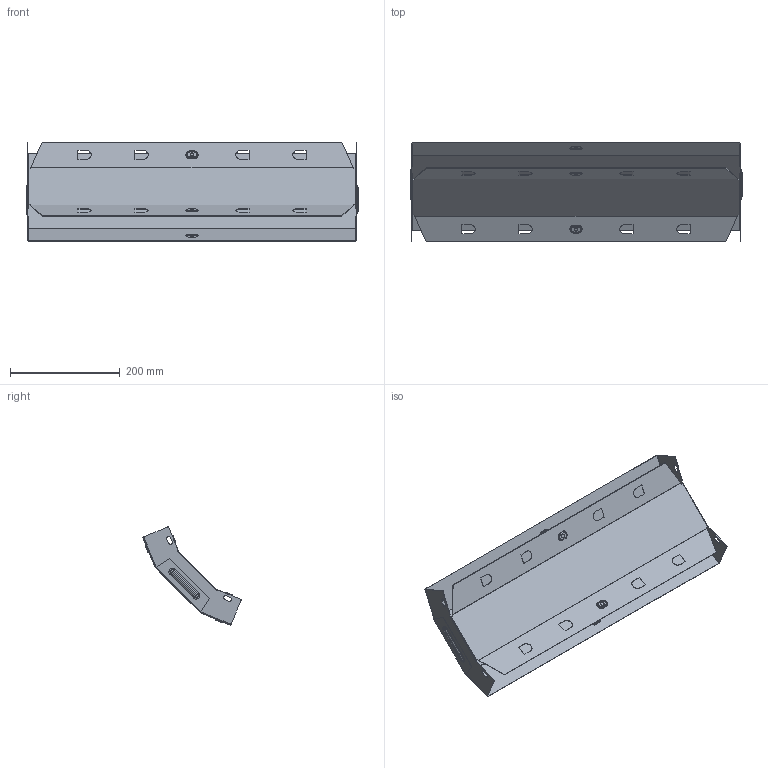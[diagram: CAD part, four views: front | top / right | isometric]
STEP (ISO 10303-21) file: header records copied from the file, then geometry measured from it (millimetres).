
FILE_DESCRIPTION (( 'STEP AP214' ), '1' );
FILE_NAME ('vo4550600_捘.STEP', '2019-06-10T08:18:49', ( '砐錪賧瘔蠈錪 Windows' ), ( '' ), 'SwSTEP 2.0', 'SolidWorks 2018', '' );
FILE_SCHEMA (( 'AUTOMOTIVE_DESIGN' ));
Length unit declared in the file: millimetre
Products named in the file (1): vo4550600_捘
Bounding box: 605.6 x 180.14 x 180.14 mm (x, y, z)
Volume: 223869.6 mm3; surface area: 563540.8 mm2
Topology: 2 solids, 2 shells, 384 faces, 954 edges, 596 vertices
Faces by surface type: plane 189, cylinder 114, torus 64, bspline 17
Entity records: 12018 total; most frequent: CARTESIAN_POINT 2691, DIRECTION 1948, ORIENTED_EDGE 1908, EDGE_CURVE 954, AXIS2_PLACEMENT_3D 676, VECTOR 596, LINE 596, VERTEX_POINT 596
